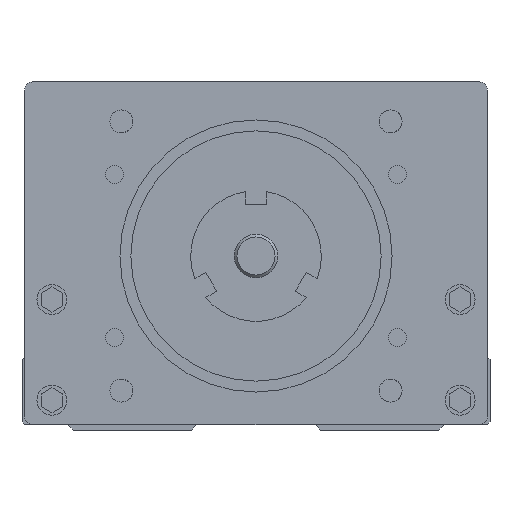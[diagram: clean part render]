
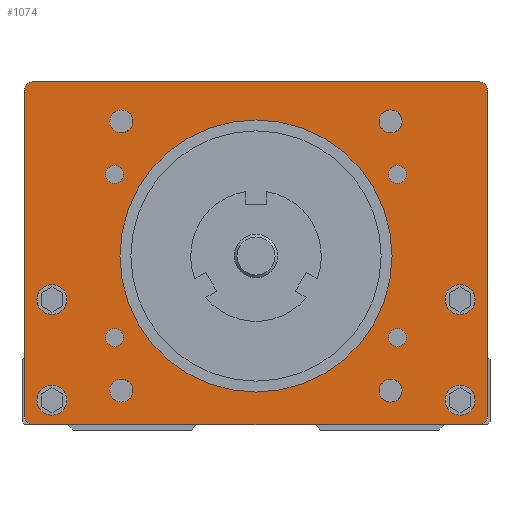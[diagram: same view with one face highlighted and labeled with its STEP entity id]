
A CAD part, front view. The second image highlights one B-rep face of the part: STEP entity #1074.
In plain terms, the highlighted planar face has unit normal (0, -1, 0).
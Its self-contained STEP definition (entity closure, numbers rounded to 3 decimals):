
#1074=ADVANCED_FACE('',(#2310,#2311,#2312,#2313,#2314,#2315,#2316,#2317,
#2318,#2319,#2320,#2321,#2322,#2323),#1595,.F.);
#1595=PLANE('',#9360);
#1944=CIRCLE('',#9332,1.5);
#1951=CIRCLE('',#9343,1.5);
#1952=CIRCLE('',#9345,1.5);
#1953=CIRCLE('',#9346,1.5);
#1954=CIRCLE('',#9347,2.75);
#1955=CIRCLE('',#9348,2.75);
#1956=CIRCLE('',#9349,2.75);
#1957=CIRCLE('',#9350,2.75);
#1958=CIRCLE('',#9351,25.);
#1959=CIRCLE('',#9352,1.65);
#1960=CIRCLE('',#9353,1.65);
#1961=CIRCLE('',#9354,1.65);
#1962=CIRCLE('',#9355,1.65);
#1963=CIRCLE('',#9356,2.1);
#1964=CIRCLE('',#9357,2.1);
#1965=CIRCLE('',#9358,2.1);
#1966=CIRCLE('',#9359,2.1);
#2310=FACE_BOUND('',#2762,.T.);
#2311=FACE_BOUND('',#2763,.T.);
#2312=FACE_BOUND('',#2764,.T.);
#2313=FACE_BOUND('',#2765,.T.);
#2314=FACE_BOUND('',#2766,.T.);
#2315=FACE_BOUND('',#2767,.T.);
#2316=FACE_BOUND('',#2768,.T.);
#2317=FACE_BOUND('',#2769,.T.);
#2318=FACE_BOUND('',#2770,.T.);
#2319=FACE_BOUND('',#2771,.T.);
#2320=FACE_BOUND('',#2772,.T.);
#2321=FACE_BOUND('',#2773,.T.);
#2322=FACE_BOUND('',#2774,.T.);
#2323=FACE_BOUND('',#2775,.T.);
#2762=EDGE_LOOP('',(#3851,#3852,#3853,#3854,#3855,#3856,#3857,#3858));
#2763=EDGE_LOOP('',(#3859));
#2764=EDGE_LOOP('',(#3860));
#2765=EDGE_LOOP('',(#3861));
#2766=EDGE_LOOP('',(#3862));
#2767=EDGE_LOOP('',(#3863));
#2768=EDGE_LOOP('',(#3864));
#2769=EDGE_LOOP('',(#3865));
#2770=EDGE_LOOP('',(#3866));
#2771=EDGE_LOOP('',(#3867));
#2772=EDGE_LOOP('',(#3868));
#2773=EDGE_LOOP('',(#3869));
#2774=EDGE_LOOP('',(#3870));
#2775=EDGE_LOOP('',(#3871));
#3851=ORIENTED_EDGE('',*,*,#6611,.T.);
#3852=ORIENTED_EDGE('',*,*,#6878,.F.);
#3853=ORIENTED_EDGE('',*,*,#6839,.T.);
#3854=ORIENTED_EDGE('',*,*,#6877,.F.);
#3855=ORIENTED_EDGE('',*,*,#6864,.T.);
#3856=ORIENTED_EDGE('',*,*,#6862,.F.);
#3857=ORIENTED_EDGE('',*,*,#6854,.T.);
#3858=ORIENTED_EDGE('',*,*,#6879,.F.);
#3859=ORIENTED_EDGE('',*,*,#6880,.F.);
#3860=ORIENTED_EDGE('',*,*,#6881,.F.);
#3861=ORIENTED_EDGE('',*,*,#6882,.F.);
#3862=ORIENTED_EDGE('',*,*,#6883,.F.);
#3863=ORIENTED_EDGE('',*,*,#6884,.F.);
#3864=ORIENTED_EDGE('',*,*,#6885,.F.);
#3865=ORIENTED_EDGE('',*,*,#6886,.F.);
#3866=ORIENTED_EDGE('',*,*,#6887,.F.);
#3867=ORIENTED_EDGE('',*,*,#6888,.F.);
#3868=ORIENTED_EDGE('',*,*,#6889,.F.);
#3869=ORIENTED_EDGE('',*,*,#6890,.F.);
#3870=ORIENTED_EDGE('',*,*,#6891,.F.);
#3871=ORIENTED_EDGE('',*,*,#6892,.F.);
#5796=VERTEX_POINT('',#12821);
#5797=VERTEX_POINT('',#12823);
#5970=VERTEX_POINT('',#13346);
#5971=VERTEX_POINT('',#13348);
#5984=VERTEX_POINT('',#13378);
#5985=VERTEX_POINT('',#13380);
#5989=VERTEX_POINT('',#13396);
#5990=VERTEX_POINT('',#13400);
#6000=VERTEX_POINT('',#13430);
#6001=VERTEX_POINT('',#13432);
#6002=VERTEX_POINT('',#13434);
#6003=VERTEX_POINT('',#13436);
#6004=VERTEX_POINT('',#13438);
#6005=VERTEX_POINT('',#13440);
#6006=VERTEX_POINT('',#13442);
#6007=VERTEX_POINT('',#13444);
#6008=VERTEX_POINT('',#13446);
#6009=VERTEX_POINT('',#13448);
#6010=VERTEX_POINT('',#13450);
#6011=VERTEX_POINT('',#13452);
#6012=VERTEX_POINT('',#13454);
#6611=EDGE_CURVE('',#5797,#5796,#7772,.T.);
#6839=EDGE_CURVE('',#5971,#5970,#7914,.T.);
#6854=EDGE_CURVE('',#5985,#5984,#7925,.T.);
#6862=EDGE_CURVE('',#5985,#5989,#1944,.T.);
#6864=EDGE_CURVE('',#5990,#5989,#7930,.T.);
#6877=EDGE_CURVE('',#5990,#5970,#1951,.T.);
#6878=EDGE_CURVE('',#5971,#5796,#1952,.T.);
#6879=EDGE_CURVE('',#5797,#5984,#1953,.T.);
#6880=EDGE_CURVE('',#6000,#6000,#1954,.T.);
#6881=EDGE_CURVE('',#6001,#6001,#1955,.T.);
#6882=EDGE_CURVE('',#6002,#6002,#1956,.T.);
#6883=EDGE_CURVE('',#6003,#6003,#1957,.T.);
#6884=EDGE_CURVE('',#6004,#6004,#1958,.T.);
#6885=EDGE_CURVE('',#6005,#6005,#1959,.T.);
#6886=EDGE_CURVE('',#6006,#6006,#1960,.T.);
#6887=EDGE_CURVE('',#6007,#6007,#1961,.T.);
#6888=EDGE_CURVE('',#6008,#6008,#1962,.T.);
#6889=EDGE_CURVE('',#6009,#6009,#1963,.T.);
#6890=EDGE_CURVE('',#6010,#6010,#1964,.T.);
#6891=EDGE_CURVE('',#6011,#6011,#1965,.T.);
#6892=EDGE_CURVE('',#6012,#6012,#1966,.T.);
#7772=LINE('',#12822,#8501);
#7914=LINE('',#13347,#8643);
#7925=LINE('',#13379,#8654);
#7930=LINE('',#13399,#8659);
#8501=VECTOR('',#10180,1.);
#8643=VECTOR('',#10540,1.);
#8654=VECTOR('',#10565,1.);
#8659=VECTOR('',#10590,1.);
#9332=AXIS2_PLACEMENT_3D('',#13395,#10585,#10586);
#9343=AXIS2_PLACEMENT_3D('',#13425,#10615,#10616);
#9345=AXIS2_PLACEMENT_3D('',#13427,#10619,#10620);
#9346=AXIS2_PLACEMENT_3D('',#13428,#10621,#10622);
#9347=AXIS2_PLACEMENT_3D('',#13429,#10623,#10624);
#9348=AXIS2_PLACEMENT_3D('',#13431,#10625,#10626);
#9349=AXIS2_PLACEMENT_3D('',#13433,#10627,#10628);
#9350=AXIS2_PLACEMENT_3D('',#13435,#10629,#10630);
#9351=AXIS2_PLACEMENT_3D('',#13437,#10631,#10632);
#9352=AXIS2_PLACEMENT_3D('',#13439,#10633,#10634);
#9353=AXIS2_PLACEMENT_3D('',#13441,#10635,#10636);
#9354=AXIS2_PLACEMENT_3D('',#13443,#10637,#10638);
#9355=AXIS2_PLACEMENT_3D('',#13445,#10639,#10640);
#9356=AXIS2_PLACEMENT_3D('',#13447,#10641,#10642);
#9357=AXIS2_PLACEMENT_3D('',#13449,#10643,#10644);
#9358=AXIS2_PLACEMENT_3D('',#13451,#10645,#10646);
#9359=AXIS2_PLACEMENT_3D('',#13453,#10647,#10648);
#9360=AXIS2_PLACEMENT_3D('',#13455,#10649,#10650);
#10180=DIRECTION('',(1.,0.,0.));
#10540=DIRECTION('',(0.,0.,1.));
#10565=DIRECTION('',(0.,0.,-1.));
#10585=DIRECTION('',(0.,1.,0.));
#10586=DIRECTION('',(-1.,0.,0.));
#10590=DIRECTION('',(-1.,0.,0.));
#10615=DIRECTION('',(0.,1.,0.));
#10616=DIRECTION('',(0.,0.,1.));
#10619=DIRECTION('',(0.,1.,0.));
#10620=DIRECTION('',(1.,0.,0.));
#10621=DIRECTION('',(0.,1.,0.));
#10622=DIRECTION('',(0.,0.,-1.));
#10623=DIRECTION('',(0.,-1.,0.));
#10624=DIRECTION('',(0.,0.,1.));
#10625=DIRECTION('',(0.,-1.,0.));
#10626=DIRECTION('',(0.,0.,1.));
#10627=DIRECTION('',(0.,-1.,0.));
#10628=DIRECTION('',(0.,0.,1.));
#10629=DIRECTION('',(0.,-1.,0.));
#10630=DIRECTION('',(0.,0.,1.));
#10631=DIRECTION('',(0.,-1.,0.));
#10632=DIRECTION('',(1.,0.,0.));
#10633=DIRECTION('',(0.,-1.,0.));
#10634=DIRECTION('',(1.,0.,0.));
#10635=DIRECTION('',(0.,-1.,0.));
#10636=DIRECTION('',(1.,0.,0.));
#10637=DIRECTION('',(0.,-1.,0.));
#10638=DIRECTION('',(1.,0.,0.));
#10639=DIRECTION('',(0.,-1.,0.));
#10640=DIRECTION('',(1.,0.,0.));
#10641=DIRECTION('',(0.,-1.,0.));
#10642=DIRECTION('',(1.,0.,0.));
#10643=DIRECTION('',(0.,-1.,0.));
#10644=DIRECTION('',(1.,0.,0.));
#10645=DIRECTION('',(0.,-1.,0.));
#10646=DIRECTION('',(1.,0.,0.));
#10647=DIRECTION('',(0.,-1.,0.));
#10648=DIRECTION('',(1.,0.,0.));
#10649=DIRECTION('',(0.,1.,0.));
#10650=DIRECTION('',(1.,0.,0.));
#12821=CARTESIAN_POINT('',(41.,50.,0.));
#12822=CARTESIAN_POINT('',(-41.,50.,0.));
#12823=CARTESIAN_POINT('',(-41.,50.,0.));
#13346=CARTESIAN_POINT('',(42.5,50.,61.5));
#13347=CARTESIAN_POINT('',(42.5,50.,1.5));
#13348=CARTESIAN_POINT('',(42.5,50.,1.5));
#13378=CARTESIAN_POINT('',(-42.5,50.,1.5));
#13379=CARTESIAN_POINT('',(-42.5,50.,61.5));
#13380=CARTESIAN_POINT('',(-42.5,50.,61.5));
#13395=CARTESIAN_POINT('',(-41.,50.,61.5));
#13396=CARTESIAN_POINT('',(-41.,50.,63.));
#13399=CARTESIAN_POINT('',(41.,50.,63.));
#13400=CARTESIAN_POINT('',(41.,50.,63.));
#13425=CARTESIAN_POINT('',(41.,50.,61.5));
#13427=CARTESIAN_POINT('',(41.,50.,1.5));
#13428=CARTESIAN_POINT('',(-41.,50.,1.5));
#13429=CARTESIAN_POINT('',(37.5,50.,4.5));
#13430=CARTESIAN_POINT('',(37.5,50.,7.25));
#13431=CARTESIAN_POINT('',(37.5,50.,23.));
#13432=CARTESIAN_POINT('',(37.5,50.,25.75));
#13433=CARTESIAN_POINT('',(-37.5,50.,23.));
#13434=CARTESIAN_POINT('',(-37.5,50.,25.75));
#13435=CARTESIAN_POINT('',(-37.5,50.,4.5));
#13436=CARTESIAN_POINT('',(-37.5,50.,7.25));
#13437=CARTESIAN_POINT('',(0.,50.,31.));
#13438=CARTESIAN_POINT('',(25.,50.,31.));
#13439=CARTESIAN_POINT('',(-25.981,50.,46.));
#13440=CARTESIAN_POINT('',(-24.331,50.,46.));
#13441=CARTESIAN_POINT('',(-25.981,50.,16.));
#13442=CARTESIAN_POINT('',(-24.331,50.,16.));
#13443=CARTESIAN_POINT('',(25.981,50.,16.));
#13444=CARTESIAN_POINT('',(27.631,50.,16.));
#13445=CARTESIAN_POINT('',(25.981,50.,46.));
#13446=CARTESIAN_POINT('',(27.631,50.,46.));
#13447=CARTESIAN_POINT('',(24.749,50.,55.749));
#13448=CARTESIAN_POINT('',(26.849,50.,55.749));
#13449=CARTESIAN_POINT('',(24.749,50.,6.251));
#13450=CARTESIAN_POINT('',(26.849,50.,6.251));
#13451=CARTESIAN_POINT('',(-24.749,50.,6.251));
#13452=CARTESIAN_POINT('',(-22.649,50.,6.251));
#13453=CARTESIAN_POINT('',(-24.749,50.,55.749));
#13454=CARTESIAN_POINT('',(-22.649,50.,55.749));
#13455=CARTESIAN_POINT('',(0.,50.,31.));
